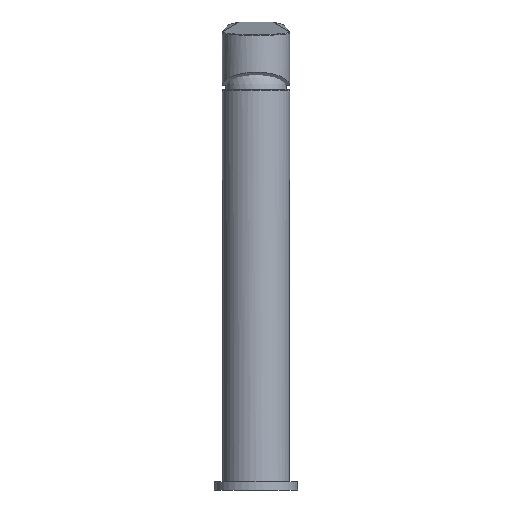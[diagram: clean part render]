
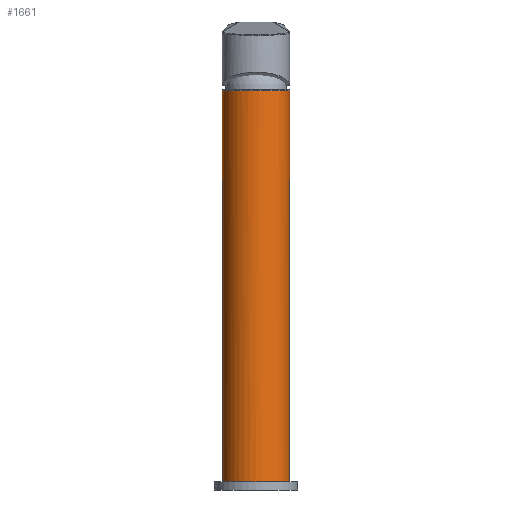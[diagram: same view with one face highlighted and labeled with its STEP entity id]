
A CAD part, left-side view. The second image highlights one B-rep face of the part: STEP entity #1661.
In plain terms, the highlighted cylindrical face has radius 21 mm (diameter 42 mm), a full revolution.
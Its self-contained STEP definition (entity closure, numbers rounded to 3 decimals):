
#341=CYLINDRICAL_SURFACE('',#22796,21.);
#417=B_SPLINE_CURVE_WITH_KNOTS('',3,(#32208,#32209,#32210,#32211,#32212,
#32213,#32214,#32215),.UNSPECIFIED.,.F.,.F.,(4,2,2,4),(0.,0.25,0.5,1.),
 .UNSPECIFIED.);
#418=B_SPLINE_CURVE_WITH_KNOTS('',3,(#32223,#32224,#32225,#32226,#32227,
#32228,#32229,#32230),.UNSPECIFIED.,.F.,.F.,(4,2,2,4),(0.,0.5,
0.75,1.),.UNSPECIFIED.);
#451=ELLIPSE('',#22793,21.012,21.);
#452=ELLIPSE('',#22795,21.012,21.);
#491=CIRCLE('',#22791,21.);
#492=CIRCLE('',#22794,21.);
#1661=ADVANCED_FACE('',(#4088),#341,.T.);
#4088=FACE_OUTER_BOUND('',#5356,.T.);
#5356=EDGE_LOOP('',(#6809,#6810,#6811,#6812,#6813,#6814,#6815,#6816,#6817,
#6818));
#6809=ORIENTED_EDGE('',*,*,#15488,.T.);
#6810=ORIENTED_EDGE('',*,*,#15489,.T.);
#6811=ORIENTED_EDGE('',*,*,#15490,.T.);
#6812=ORIENTED_EDGE('',*,*,#15491,.T.);
#6813=ORIENTED_EDGE('',*,*,#15492,.F.);
#6814=ORIENTED_EDGE('',*,*,#15493,.T.);
#6815=ORIENTED_EDGE('',*,*,#15494,.T.);
#6816=ORIENTED_EDGE('',*,*,#15495,.T.);
#6817=ORIENTED_EDGE('',*,*,#15487,.F.);
#6818=ORIENTED_EDGE('',*,*,#15495,.F.);
#13332=VERTEX_POINT('',#32203);
#13333=VERTEX_POINT('',#32206);
#13334=VERTEX_POINT('',#32207);
#13335=VERTEX_POINT('',#32216);
#13336=VERTEX_POINT('',#32218);
#13337=VERTEX_POINT('',#32220);
#13338=VERTEX_POINT('',#32222);
#13339=VERTEX_POINT('',#32231);
#15487=EDGE_CURVE('',#13332,#13332,#491,.T.);
#15488=EDGE_CURVE('',#13333,#13334,#451,.T.);
#15489=EDGE_CURVE('',#13334,#13335,#417,.T.);
#15490=EDGE_CURVE('',#13335,#13336,#18746,.T.);
#15491=EDGE_CURVE('',#13336,#13337,#492,.T.);
#15492=EDGE_CURVE('',#13338,#13337,#18747,.T.);
#15493=EDGE_CURVE('',#13338,#13339,#418,.T.);
#15494=EDGE_CURVE('',#13339,#13333,#452,.T.);
#15495=EDGE_CURVE('',#13333,#13332,#18748,.T.);
#18746=LINE('',#32217,#20770);
#18747=LINE('',#32221,#20771);
#18748=LINE('',#32233,#20772);
#20770=VECTOR('',#25268,1.);
#20771=VECTOR('',#25271,1.);
#20772=VECTOR('',#25274,1.);
#22791=AXIS2_PLACEMENT_3D('',#32202,#25262,#25263);
#22793=AXIS2_PLACEMENT_3D('',#32205,#25266,#25267);
#22794=AXIS2_PLACEMENT_3D('',#32219,#25269,#25270);
#22795=AXIS2_PLACEMENT_3D('',#32232,#25272,#25273);
#22796=AXIS2_PLACEMENT_3D('',#32234,#25275,#25276);
#25262=DIRECTION('',(0.,0.,-1.));
#25263=DIRECTION('',(1.,0.,0.));
#25266=DIRECTION('',(0.033,0.,-0.999));
#25267=DIRECTION('',(0.999,0.,0.033));
#25268=DIRECTION('',(0.,0.,1.));
#25269=DIRECTION('',(0.,0.,-1.));
#25270=DIRECTION('',(-1.,0.,0.));
#25271=DIRECTION('',(0.,0.,1.));
#25272=DIRECTION('',(0.033,0.,-0.999));
#25273=DIRECTION('',(0.999,0.,0.033));
#25274=DIRECTION('',(0.,0.,-1.));
#25275=DIRECTION('',(0.,0.,1.));
#25276=DIRECTION('',(1.,0.,0.));
#32202=CARTESIAN_POINT('',(0.,0.,-137.));
#32203=CARTESIAN_POINT('',(21.,0.,-137.));
#32205=CARTESIAN_POINT('',(0.,0.,81.489));
#32206=CARTESIAN_POINT('',(21.,0.,82.192));
#32207=CARTESIAN_POINT('',(15.03,-14.666,81.992));
#32208=CARTESIAN_POINT('',(15.03,-14.666,81.992));
#32209=CARTESIAN_POINT('',(13.926,-15.798,81.955));
#32210=CARTESIAN_POINT('',(12.744,-16.756,82.312));
#32211=CARTESIAN_POINT('',(10.285,-18.368,83.373));
#32212=CARTESIAN_POINT('',(9.056,-18.995,84.064));
#32213=CARTESIAN_POINT('',(5.306,-20.496,86.369));
#32214=CARTESIAN_POINT('',(2.769,-20.968,88.201));
#32215=CARTESIAN_POINT('',(0.254,-20.998,89.997));
#32216=CARTESIAN_POINT('',(0.254,-20.998,89.997));
#32217=CARTESIAN_POINT('',(0.254,-20.998,-16.5));
#32218=CARTESIAN_POINT('',(0.254,-20.998,107.5));
#32219=CARTESIAN_POINT('',(0.,0.,107.5));
#32220=CARTESIAN_POINT('',(0.254,20.998,107.5));
#32221=CARTESIAN_POINT('',(0.254,20.998,-16.5));
#32222=CARTESIAN_POINT('',(0.254,20.998,89.997));
#32223=CARTESIAN_POINT('',(0.254,20.998,89.997));
#32224=CARTESIAN_POINT('',(2.769,20.968,88.201));
#32225=CARTESIAN_POINT('',(5.306,20.496,86.369));
#32226=CARTESIAN_POINT('',(9.056,18.995,84.064));
#32227=CARTESIAN_POINT('',(10.285,18.368,83.373));
#32228=CARTESIAN_POINT('',(12.744,16.756,82.312));
#32229=CARTESIAN_POINT('',(13.926,15.798,81.955));
#32230=CARTESIAN_POINT('',(15.03,14.666,81.992));
#32231=CARTESIAN_POINT('',(15.03,14.666,81.992));
#32232=CARTESIAN_POINT('',(0.,0.,81.489));
#32233=CARTESIAN_POINT('',(21.,0.,90.));
#32234=CARTESIAN_POINT('',(0.,0.,0.));
